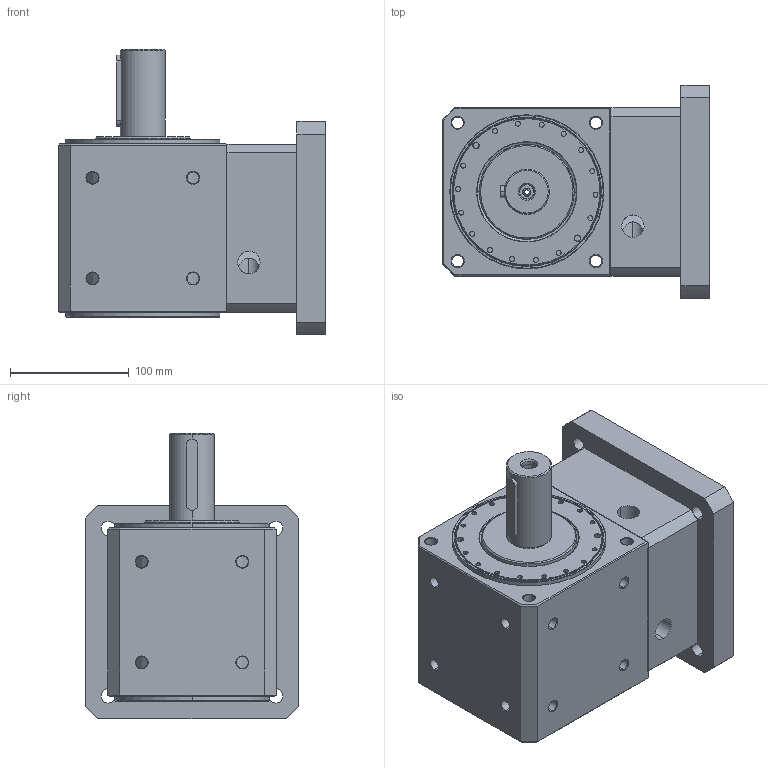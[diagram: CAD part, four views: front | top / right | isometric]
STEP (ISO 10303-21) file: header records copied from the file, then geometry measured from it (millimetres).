
FILE_DESCRIPTION (( 'STEP AP203' ), '1' );
FILE_NAME ('WS150SF-2-35-114.3-200-M12.STEP', '2014-03-13T04:04:00', ( ' ' ), ( '' ), 'SwSTEP 2.0', 'SolidWorks 2012', '' );
FILE_SCHEMA (( 'CONFIG_CONTROL_DESIGN' ));
Length unit declared in the file: millimetre
Products named in the file (1): WS150SF-2-35-114.3-200-M12
Bounding box: 225 x 180 x 241 mm (x, y, z)
Surface area: 331424.4 mm2 (no closed solid volume)
Topology: 0 solids, 15 shells, 316 faces, 871 edges, 566 vertices
Faces by surface type: cylinder 181, cone 80, plane 49, torus 6
Entity records: 10983 total; most frequent: CARTESIAN_POINT 2450, DIRECTION 1995, ORIENTED_EDGE 1499, EDGE_CURVE 871, AXIS2_PLACEMENT_3D 825, VERTEX_POINT 566, CIRCLE 508, EDGE_LOOP 417
